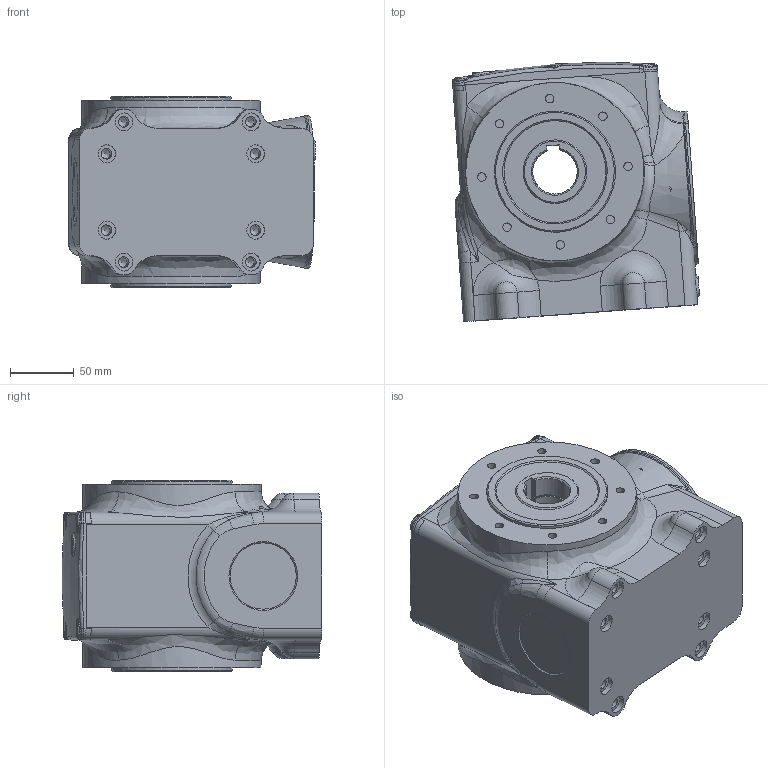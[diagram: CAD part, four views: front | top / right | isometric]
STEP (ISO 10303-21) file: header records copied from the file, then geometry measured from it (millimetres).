
FILE_DESCRIPTION(/* description */ (''),/* implementation_level */ '2;1');
FILE_NAME(/* name */ 'Z:\Dertec\RVS pakket tekeningen\Kasten\FSA + FS serie\FS\FS58\Step Customer\FS58 HA35 #.stp',/* time_stamp */ '2017-12-08T11:13:40+01:00',/* author */ ('Dertec'),/* organization */ (''),/* preprocessor_version */ 'ST-DEVELOPER v16.1',/* originating_system */ 'Autodesk Inventor 2016',/* authorisation */ '');
FILE_SCHEMA (('AUTOMOTIVE_DESIGN { 1 0 10303 214 3 1 1 }'));
Length unit declared in the file: inch
Products named in the file (1): Part34
Bounding box: 193.69 x 203.53 x 150 mm (x, y, z)
Volume: 3653547.2 mm3; surface area: 276574.6 mm2
Topology: 1 solids, 6 shells, 542 faces, 1278 edges, 778 vertices
Faces by surface type: bspline 170, plane 145, cylinder 133, torus 44, cone 44, sphere 6
Full cylindrical faces by diameter (mm): 4.917 x4, 6.644 x1, 6.647 x22, 8.376 x8, 8.917 x1, 11 x4, 14 x8, 49.9 x2, 50 x2, 50.2 x1, 52 x1, 55 x1, 80 x3, 83.5 x2, 84 x1, 87 x1, 95 x2, 140 x2
Entity records: 31207 total; most frequent: CARTESIAN_POINT 19891, ORIENTED_EDGE 2194, DIRECTION 1997, EDGE_CURVE 1097, AXIS2_PLACEMENT_3D 887, VERTEX_POINT 724, EDGE_LOOP 705, STYLED_ITEM 543
